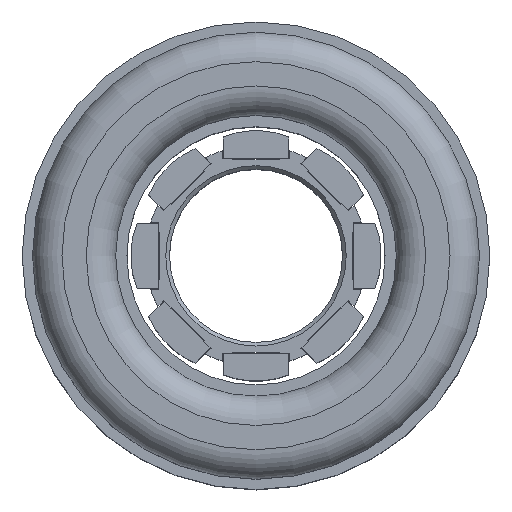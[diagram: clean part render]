
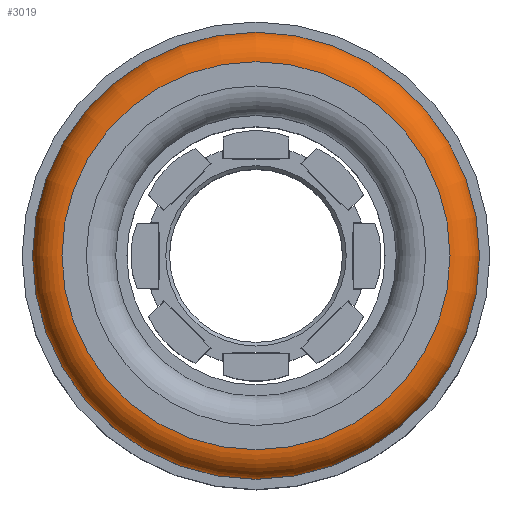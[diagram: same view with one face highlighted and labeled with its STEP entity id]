
A CAD part, top view. The second image highlights one B-rep face of the part: STEP entity #3019.
In plain terms, the highlighted toroidal (fillet/blend) face has major radius 26.35 mm and minor radius 4 mm.
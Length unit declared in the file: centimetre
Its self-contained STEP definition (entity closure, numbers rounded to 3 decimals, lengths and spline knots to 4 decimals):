
#15=TOROIDAL_SURFACE($,#3257,2.635,0.4);
#22=FACE_BOUND($,#391,.T.);
#198=FACE_OUTER_BOUND($,#390,.T.);
#390=EDGE_LOOP($,(#2059));
#391=EDGE_LOOP($,(#2060));
#597=CIRCLE($,#3256,2.635);
#598=CIRCLE($,#3258,3.035);
#1345=VERTEX_POINT($,#4399);
#1346=VERTEX_POINT($,#4402);
#1631=EDGE_CURVE($,#1345,#1345,#597,.T.);
#1632=EDGE_CURVE($,#1346,#1346,#598,.T.);
#2059=ORIENTED_EDGE($,*,*,#1632,.F.);
#2060=ORIENTED_EDGE($,*,*,#1631,.T.);
#3019=ADVANCED_FACE($,(#198,#22),#15,.T.);
#3256=AXIS2_PLACEMENT_3D($,#4400,#3547,#3548);
#3257=AXIS2_PLACEMENT_3D($,#4401,#3549,#3550);
#3258=AXIS2_PLACEMENT_3D($,#4403,#3551,#3552);
#3547=DIRECTION('center_axis',(0.,0.,-1.));
#3548=DIRECTION('ref_axis',(0.,1.,0.));
#3549=DIRECTION('center_axis',(0.,0.,-1.));
#3550=DIRECTION('ref_axis',(-1.,0.,0.));
#3551=DIRECTION('center_axis',(0.,0.,-1.));
#3552=DIRECTION('ref_axis',(0.,1.,0.));
#4399=CARTESIAN_POINT('',(0.,2.635,2.23));
#4400=CARTESIAN_POINT('Origin',(0.,0.,2.23));
#4401=CARTESIAN_POINT('Origin',(0.,0.,1.83));
#4402=CARTESIAN_POINT('',(0.,3.035,1.83));
#4403=CARTESIAN_POINT('Origin',(0.,0.,1.83));
